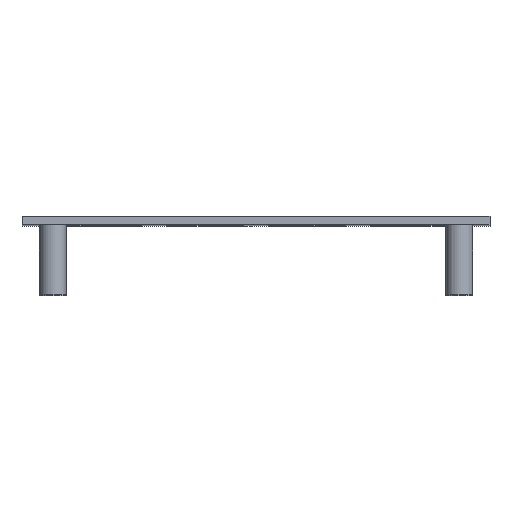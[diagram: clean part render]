
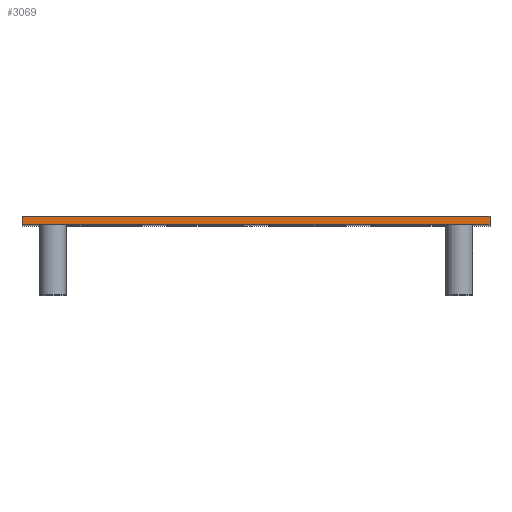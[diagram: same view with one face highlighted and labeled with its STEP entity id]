
A CAD part, top view. The second image highlights one B-rep face of the part: STEP entity #3069.
In plain terms, the highlighted planar face has unit normal (0, 0, 1).
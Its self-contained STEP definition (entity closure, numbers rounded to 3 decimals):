
#217=PLANE('',#3259);
#363=FACE_OUTER_BOUND('',#548,.T.);
#548=EDGE_LOOP('',(#2776,#2777,#2778,#2779));
#592=LINE('',#4056,#984);
#969=LINE('',#4826,#1361);
#970=LINE('',#4828,#1362);
#971=LINE('',#4829,#1363);
#984=VECTOR('',#3330,10.);
#1361=VECTOR('',#3981,10.);
#1362=VECTOR('',#3982,10.);
#1363=VECTOR('',#3983,10.);
#1411=VERTEX_POINT('',#4052);
#1413=VERTEX_POINT('',#4055);
#1669=VERTEX_POINT('',#4825);
#1670=VERTEX_POINT('',#4827);
#1698=EDGE_CURVE('',#1413,#1411,#592,.T.);
#2081=EDGE_CURVE('',#1411,#1669,#969,.T.);
#2082=EDGE_CURVE('',#1670,#1669,#970,.T.);
#2083=EDGE_CURVE('',#1413,#1670,#971,.T.);
#2776=ORIENTED_EDGE('',*,*,#1698,.T.);
#2777=ORIENTED_EDGE('',*,*,#2081,.T.);
#2778=ORIENTED_EDGE('',*,*,#2082,.F.);
#2779=ORIENTED_EDGE('',*,*,#2083,.F.);
#3069=ADVANCED_FACE('',(#363),#217,.T.);
#3259=AXIS2_PLACEMENT_3D('',#4824,#3979,#3980);
#3330=DIRECTION('',(1.,0.,0.));
#3979=DIRECTION('center_axis',(0.,0.,1.));
#3980=DIRECTION('ref_axis',(1.,0.,0.));
#3981=DIRECTION('',(0.,1.,0.));
#3982=DIRECTION('',(1.,0.,0.));
#3983=DIRECTION('',(0.,1.,0.));
#4052=CARTESIAN_POINT('',(79.25,0.,8.));
#4055=CARTESIAN_POINT('',(-8.,0.,8.));
#4056=CARTESIAN_POINT('',(-8.,0.,8.));
#4824=CARTESIAN_POINT('Origin',(-8.,0.,8.));
#4825=CARTESIAN_POINT('',(79.25,1.6,8.));
#4826=CARTESIAN_POINT('',(79.25,0.,8.));
#4827=CARTESIAN_POINT('',(-8.,1.6,8.));
#4828=CARTESIAN_POINT('',(-8.,1.6,8.));
#4829=CARTESIAN_POINT('',(-8.,0.,8.));
